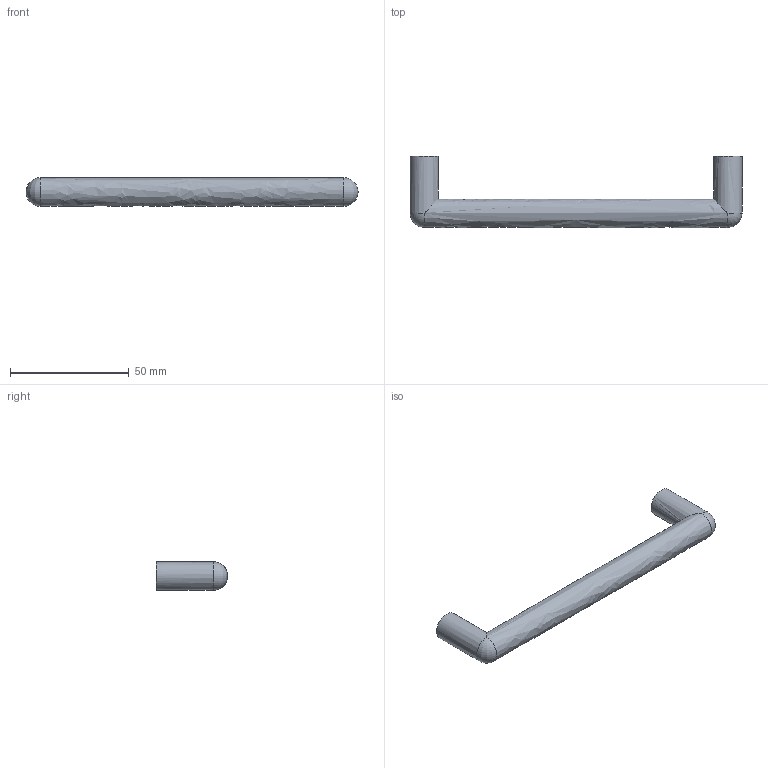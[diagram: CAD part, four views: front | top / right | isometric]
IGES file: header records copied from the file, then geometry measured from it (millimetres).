
Start section: Data from Parasolid IGES Translator 15.0.47, Copyright(c) 2006 Siemens P LM Software. All Rights Reserved.
Global section: file name:  9070973.igs; native system:  By UGS Corp.; preprocessor: XPlus GENERIC/IGES 3.0; author: Noname; organization: Noname; date: 20140122.181523; units: millimetre
Bounding box: 140 x 30 x 12 mm (x, y, z)
Surface area: 7113.6 mm2 (no closed solid volume)
Topology: 0 solids, 0 shells, 11 faces, 38 edges, 30 vertices
Faces by surface type: revolution 7, extrusion 4
